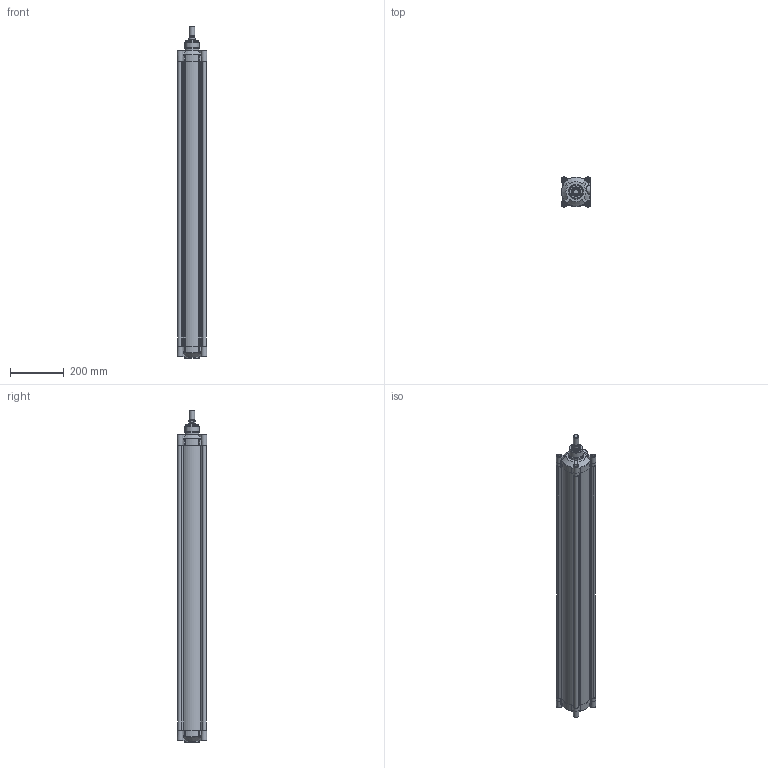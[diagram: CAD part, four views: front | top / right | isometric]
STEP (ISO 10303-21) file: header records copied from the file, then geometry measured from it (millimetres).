
FILE_DESCRIPTION(/* description */ (''),/* implementation_level */ '2;1');
FILE_NAME(/* name */ 'T:\Archivio Inventor\- 00 NUOVI STP PER SITO CON STELO CHE SI MUOVE\SERIE H - U\SERIE HDM\HDM100 - TUBO NUOVO\HDM100.1000.GS.M.stp',/* time_stamp */ '2018-08-02T10:06:25+02:00',/* author */ ('carlo.corazza'),/* organization */ (''),/* preprocessor_version */ 'ST-DEVELOPER v16.5',/* originating_system */ 'Autodesk Inventor 2017',/* authorisation */ '');
FILE_SCHEMA (('AUTOMOTIVE_DESIGN { 1 0 10303 214 3 1 1 }'));
Length unit declared in the file: millimetre
Products named in the file (5): HDM100.1000.GS.M; TP; TA; STELO-1000; CORPO-1000
Assembly tree (4 placements, depth 2):
  HDM100.1000.GS.M
    TP
    TA
    STELO-1000
    CORPO-1000
Bounding box: 110 x 110 x 1233 mm (x, y, z)
Volume: 2842880.8 mm3; surface area: 1373797.4 mm2
Topology: 4 solids, 29 shells, 1355 faces, 3135 edges, 1912 vertices
Faces by surface type: plane 408, cylinder 313, bspline 270, torus 126, cone 122, sphere 116
Full cylindrical faces by diameter (mm): 5 x2, 5.9 x2, 6.5 x2, 7.25 x2, 8.376 x8, 9.4 x4, 10 x8, 10.3 x8, 11.8 x4, 11.9 x2, 12 x4, 16 x9, 16.3 x8, 17 x2, 17.5 x1, 18.631 x2, 20 x1, 24.5 x1, 25 x1, 25.8 x1, 25.962 x1, 30 x1, 31.5 x2, 35 x3, 52 x1, 55 x2, 100 x1
Entity records: 43668 total; most frequent: CARTESIAN_POINT 13702, ORIENTED_EDGE 5710, DIRECTION 5644, EDGE_CURVE 2855, AXIS2_PLACEMENT_3D 2293, VERTEX_POINT 1857, EDGE_LOOP 1690, STYLED_ITEM 1359
